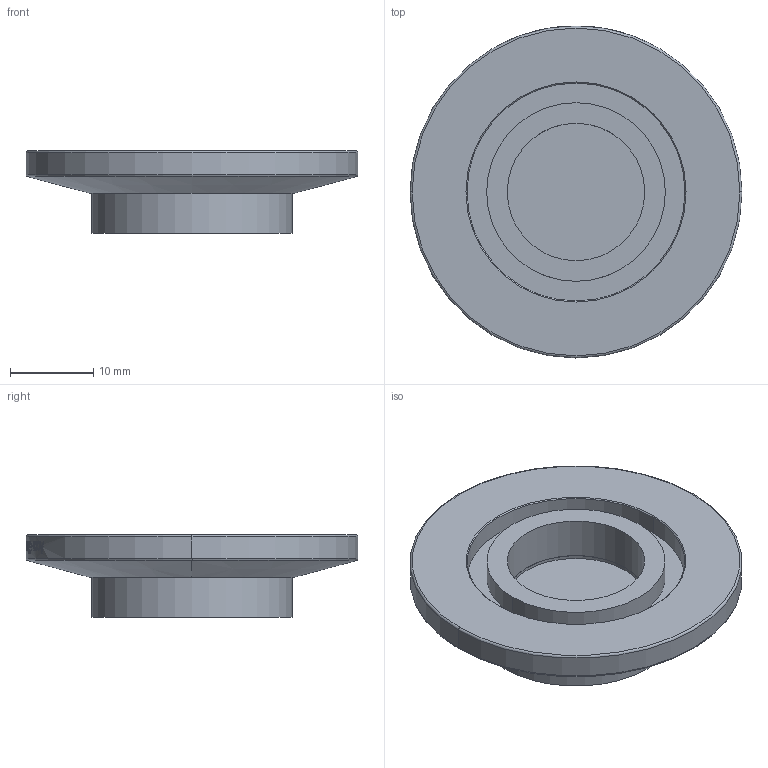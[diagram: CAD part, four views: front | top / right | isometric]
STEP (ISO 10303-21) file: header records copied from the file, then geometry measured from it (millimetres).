
FILE_DESCRIPTION(/* description */ ('Alibre Inc.'),/* implementation_level */ '2;1');
FILE_NAME(/* name */ 'export0',/* time_stamp */ '2009-03-03T16:39:27-08:00',/* author */ (''),/* organization */ (''),/* preprocessor_version */ 'ST-DEVELOPER v10',/* originating_system */ 'Alibre',/* authorisation */ '');
FILE_SCHEMA (('CONFIG_CONTROL_DESIGN'));
Length unit declared in the file: inch
Products named in the file (1): 112662
Bounding box: 39.88 x 39.88 x 9.91 mm (x, y, z)
Volume: 5482.3 mm3; surface area: 4263.2 mm2
Topology: 1 solids, 1 shells, 319 faces, 833 edges, 553 vertices
Faces by surface type: bspline 138, plane 124, cylinder 47, torus 5, cone 4, sphere 1
Full cylindrical faces by diameter (mm): 16.336 x1, 16.51 x1, 16.629 x1, 18.84 x1, 19.812 x2, 24.13 x1
Entity records: 30253 total; most frequent: CARTESIAN_POINT 23683, ORIENTED_EDGE 1646, EDGE_CURVE 823, DIRECTION 748, VERTEX_POINT 551, B_SPLINE_CURVE_WITH_KNOTS 467, EDGE_LOOP 364, FACE_BOUND 364
